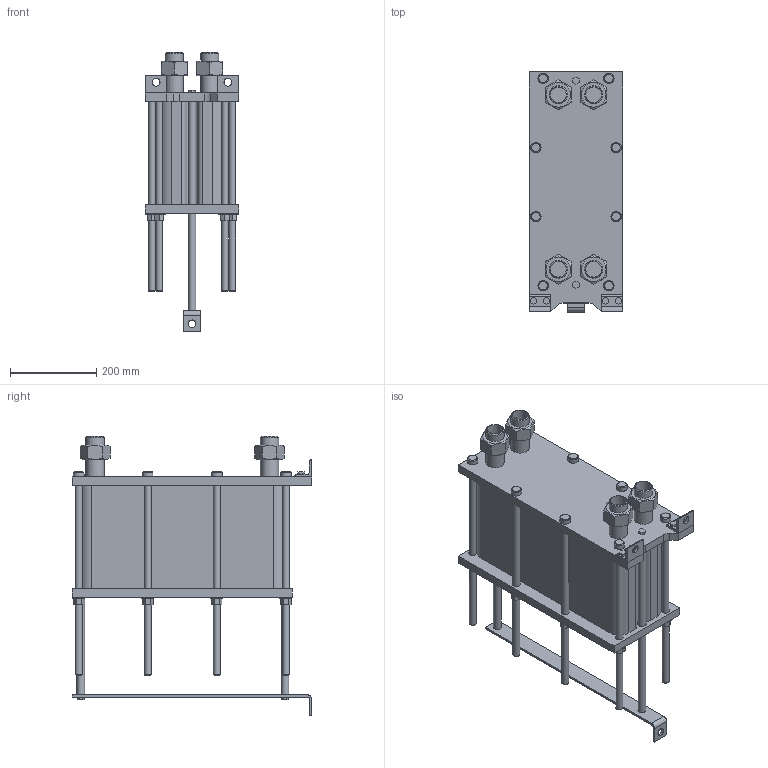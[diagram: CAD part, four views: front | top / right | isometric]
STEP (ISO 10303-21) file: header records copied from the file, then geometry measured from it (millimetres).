
FILE_DESCRIPTION(/* description */ (''),/* implementation_level */ '2;1');
FILE_NAME(/* name */ 'C:\Users\zhuro\Desktop\ENCO\TO\ЭН-004\ЭН-0,5-004-77-1.stp',/* time_stamp */ '2022-06-06T10:49:51+03:00',/* author */ ('zhuro'),/* organization */ (''),/* preprocessor_version */ 'ST-DEVELOPER v18.1',/* originating_system */ 'Autodesk Inventor 2022',/* authorisation */ '');
FILE_SCHEMA (('AUTOMOTIVE_DESIGN { 1 0 10303 214 3 1 1 }'));
Length unit declared in the file: millimetre
Products named in the file (1): ЭН-0,5-004-77-1
Bounding box: 216 x 555 x 646.6 mm (x, y, z)
Volume: 23575374.4 mm3; surface area: 1475653.6 mm2
Topology: 40 solids, 40 shells, 403 faces, 865 edges, 574 vertices
Faces by surface type: plane 272, cylinder 103, cone 28
Full cylindrical faces by diameter (mm): 10 x4, 16 x16, 18 x29, 20 x2, 24 x8, 28 x8, 36.3 x5, 42.3 x9
Entity records: 11137 total; most frequent: CARTESIAN_POINT 1939, DIRECTION 1879, ORIENTED_EDGE 1730, EDGE_CURVE 865, AXIS2_PLACEMENT_3D 658, VERTEX_POINT 574, LINE 563, VECTOR 563
